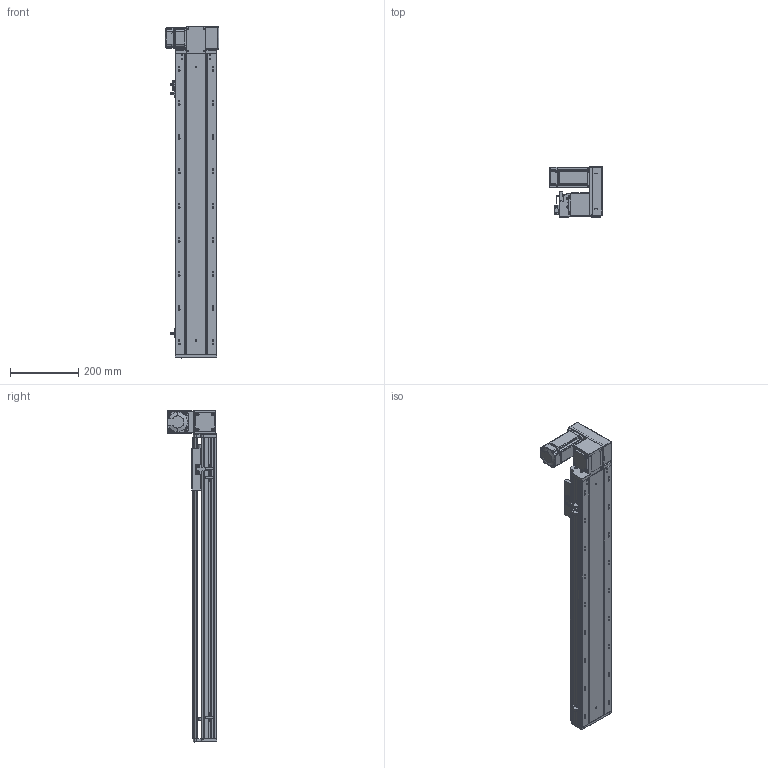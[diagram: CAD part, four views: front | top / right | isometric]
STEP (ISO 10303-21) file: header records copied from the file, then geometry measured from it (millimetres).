
FILE_DESCRIPTION (( 'STEP AP203' ), '1' );
FILE_NAME ('RY120-T-300-UR.SLDASM_650.step', '2021-03-01T05:56:03', ( '盈信电脑' ), ( '东莞市道滘镇水果街19号' ), 'SwSTEP 2.0', 'SolidWorks 2012', '' );
FILE_SCHEMA (( 'CONFIG_CONTROL_DESIGN' ));
Products named in the file (17): RY120綴裔啣; RY120肮祭湍臏賑輸; RY120-T-300-UR倰第菁釱_650; RY120-T-300-UR倰第奻裔啣_650; RY120-T-300-UR.SLDASM_650; RY120-T主同步轮轴承压盖; RY120-T翋肮祭謫裔啣; 15; RY120-T蹟翐M4; RY120-T萇儂欶; RY120-T萇儂假蚾啣; RY120-T翋肮祭盓傅釱; 滅袉蝶18-10; RY120-T肮祭湍揤踡輸2; RY120-T肮祭湍揤踡輸1; RY120外置感应片(140共用）; 覜茼ん672
Assembly tree (22 placements, depth 2):
  RY120-T-300-UR.SLDASM_650
    RY120-T-300-UR倰第菁釱_650
    RY120-T-300-UR倰第奻裔啣_650
    RY120肮祭湍臏賑輸
    RY120綴裔啣
    覜茼ん672  x3
    RY120外置感应片(140共用）
    RY120-T肮祭湍揤踡輸1
    RY120-T肮祭湍揤踡輸2
    RY120-T翋肮祭盓傅釱
    RY120-T萇儂假蚾啣
    滅袉蝶18-10  x2
    RY120-T翋肮祭謫裔啣
    15
    RY120-T蹟翐M4  x4
    RY120-T萇儂欶
    RY120-T主同步轮轴承压盖
Bounding box: 155.5 x 146 x 971 mm (x, y, z)
Volume: 2845553.9 mm3; surface area: 1048095.4 mm2
Topology: 23 solids, 23 shells, 2856 faces, 7828 edges, 5042 vertices
Faces by surface type: plane 1436, cylinder 1100, cone 231, bspline 89
Entity records: 92049 total; most frequent: CARTESIAN_POINT 24004, ORIENTED_EDGE 14128, DIRECTION 13210, EDGE_CURVE 7064, VERTEX_POINT 4629, AXIS2_PLACEMENT_3D 4423, VECTOR 4364, LINE 4364
